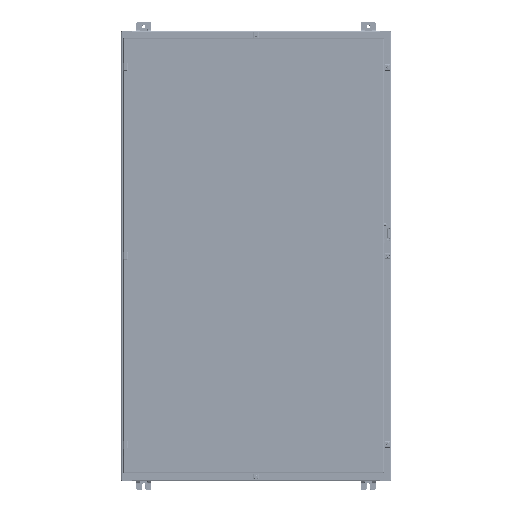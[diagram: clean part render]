
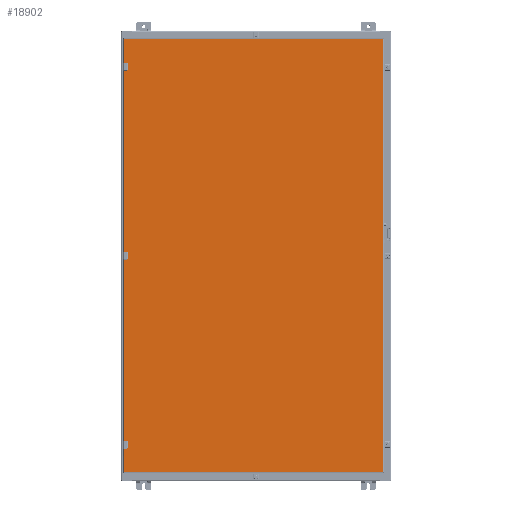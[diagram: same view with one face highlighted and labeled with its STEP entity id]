
A CAD part, top view. The second image highlights one B-rep face of the part: STEP entity #18902.
In plain terms, the highlighted planar face has unit normal (0, 0, 1) as drawn and (0, 1, 0) by its records, which use the part's own axes.
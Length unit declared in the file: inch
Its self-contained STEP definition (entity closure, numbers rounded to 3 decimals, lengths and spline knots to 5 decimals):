
#14120=DIRECTION('',(0.,0.,1.));
#14121=VECTOR('',#14120,34.566);
#14122=CARTESIAN_POINT('',(-28.91438,0.,0.117));
#14123=LINE('',#14122,#14121);
#14198=DIRECTION('',(0.,0.,-1.));
#14199=VECTOR('',#14198,0.3629);
#14200=CARTESIAN_POINT('',(25.59513,0.,34.683));
#14201=LINE('',#14200,#14199);
#14205=DIRECTION('',(-1.,0.,0.));
#14206=VECTOR('',#14205,0.63);
#14207=CARTESIAN_POINT('',(25.56513,0.,34.2901));
#14208=LINE('',#14207,#14206);
#14212=DIRECTION('',(0.,0.,-1.));
#14213=VECTOR('',#14212,0.3629);
#14214=CARTESIAN_POINT('',(24.90513,0.,34.683));
#14215=LINE('',#14214,#14213);
#14219=DIRECTION('',(0.,0.,-1.));
#14220=VECTOR('',#14219,0.3629);
#14221=CARTESIAN_POINT('',(0.345,0.,34.683));
#14222=LINE('',#14221,#14220);
#14226=DIRECTION('',(-1.,0.,0.));
#14227=VECTOR('',#14226,0.63);
#14228=CARTESIAN_POINT('',(0.315,0.,34.2901));
#14229=LINE('',#14228,#14227);
#14233=DIRECTION('',(0.,0.,-1.));
#14234=VECTOR('',#14233,0.3629);
#14235=CARTESIAN_POINT('',(-0.345,0.,34.683));
#14236=LINE('',#14235,#14234);
#14240=DIRECTION('',(0.,0.,-1.));
#14241=VECTOR('',#14240,0.3629);
#14242=CARTESIAN_POINT('',(-24.90513,0.,34.683));
#14243=LINE('',#14242,#14241);
#14247=DIRECTION('',(-1.,0.,0.));
#14248=VECTOR('',#14247,0.63);
#14249=CARTESIAN_POINT('',(-24.93513,0.,34.2901));
#14250=LINE('',#14249,#14248);
#14254=DIRECTION('',(0.,0.,-1.));
#14255=VECTOR('',#14254,0.3629);
#14256=CARTESIAN_POINT('',(-25.59513,0.,34.683));
#14257=LINE('',#14256,#14255);
#14261=DIRECTION('',(0.,0.,1.));
#14262=VECTOR('',#14261,34.566);
#14263=CARTESIAN_POINT('',(28.91438,0.,0.117));
#14264=LINE('',#14263,#14262);
#14428=DIRECTION('',(-1.,0.,0.));
#14429=VECTOR('',#14428,57.82875);
#14430=CARTESIAN_POINT('',(28.91438,0.,0.117));
#14431=LINE('',#14430,#14429);
#16110=DIRECTION('',(-1.,0.,0.));
#16111=VECTOR('',#16110,24.56013);
#16112=CARTESIAN_POINT('',(24.90513,0.,34.683));
#16113=LINE('',#16112,#16111);
#16155=DIRECTION('',(-1.,0.,0.));
#16156=VECTOR('',#16155,24.56013);
#16157=CARTESIAN_POINT('',(-0.345,0.,34.683));
#16158=LINE('',#16157,#16156);
#16196=DIRECTION('',(-1.,0.,0.));
#16197=VECTOR('',#16196,3.31925);
#16198=CARTESIAN_POINT('',(-25.59513,0.,34.683));
#16199=LINE('',#16198,#16197);
#16233=DIRECTION('',(-1.,0.,0.));
#16234=VECTOR('',#16233,3.31925);
#16235=CARTESIAN_POINT('',(28.91438,0.,34.683));
#16236=LINE('',#16235,#16234);
#16254=CARTESIAN_POINT('',(24.93513,0.,34.3201));
#16255=DIRECTION('',(0.,-1.,0.));
#16256=DIRECTION('',(-1.,0.,0.));
#16257=AXIS2_PLACEMENT_3D('',#16254,#16255,#16256);
#16284=CARTESIAN_POINT('',(25.56513,0.,34.3201));
#16285=DIRECTION('',(0.,-1.,0.));
#16286=DIRECTION('',(0.,0.,-1.));
#16287=AXIS2_PLACEMENT_3D('',#16284,#16285,#16286);
#16832=CARTESIAN_POINT('',(-0.315,0.,34.3201));
#16833=DIRECTION('',(0.,-1.,0.));
#16834=DIRECTION('',(-1.,0.,0.));
#16835=AXIS2_PLACEMENT_3D('',#16832,#16833,#16834);
#16862=CARTESIAN_POINT('',(0.315,0.,34.3201));
#16863=DIRECTION('',(0.,-1.,0.));
#16864=DIRECTION('',(0.,0.,-1.));
#16865=AXIS2_PLACEMENT_3D('',#16862,#16863,#16864);
#16952=CARTESIAN_POINT('',(-25.56513,0.,34.3201));
#16953=DIRECTION('',(0.,-1.,0.));
#16954=DIRECTION('',(-1.,0.,0.));
#16955=AXIS2_PLACEMENT_3D('',#16952,#16953,#16954);
#16982=CARTESIAN_POINT('',(-24.93513,0.,34.3201));
#16983=DIRECTION('',(0.,-1.,0.));
#16984=DIRECTION('',(0.,0.,-1.));
#16985=AXIS2_PLACEMENT_3D('',#16982,#16983,#16984);
#17799=CARTESIAN_POINT('',(28.91438,0.,0.117));
#17800=CARTESIAN_POINT('',(-28.91438,0.,0.117));
#17801=VERTEX_POINT('',#17799);
#17802=VERTEX_POINT('',#17800);
#18077=CARTESIAN_POINT('',(-28.91438,0.,34.683));
#18078=VERTEX_POINT('',#18077);
#18087=CARTESIAN_POINT('',(28.91438,0.,34.683));
#18089=VERTEX_POINT('',#18087);
#18280=CARTESIAN_POINT('',(-24.90513,0.,34.683));
#18282=VERTEX_POINT('',#18280);
#18284=CARTESIAN_POINT('',(-25.59513,0.,34.683));
#18286=VERTEX_POINT('',#18284);
#18296=CARTESIAN_POINT('',(25.59513,0.,34.683));
#18298=VERTEX_POINT('',#18296);
#18300=CARTESIAN_POINT('',(24.90513,0.,34.683));
#18302=VERTEX_POINT('',#18300);
#18312=CARTESIAN_POINT('',(0.345,0.,34.683));
#18314=VERTEX_POINT('',#18312);
#18316=CARTESIAN_POINT('',(-0.345,0.,34.683));
#18318=VERTEX_POINT('',#18316);
#18327=CARTESIAN_POINT('',(-25.59513,0.,34.3201));
#18329=VERTEX_POINT('',#18327);
#18331=CARTESIAN_POINT('',(-25.56513,0.,34.2901));
#18333=VERTEX_POINT('',#18331);
#18351=CARTESIAN_POINT('',(-24.93513,0.,34.2901));
#18353=VERTEX_POINT('',#18351);
#18355=CARTESIAN_POINT('',(-24.90513,0.,34.3201));
#18357=VERTEX_POINT('',#18355);
#18359=CARTESIAN_POINT('',(24.90513,0.,34.3201));
#18361=VERTEX_POINT('',#18359);
#18363=CARTESIAN_POINT('',(24.93513,0.,34.2901));
#18365=VERTEX_POINT('',#18363);
#18383=CARTESIAN_POINT('',(25.56513,0.,34.2901));
#18385=VERTEX_POINT('',#18383);
#18387=CARTESIAN_POINT('',(25.59513,0.,34.3201));
#18389=VERTEX_POINT('',#18387);
#18391=CARTESIAN_POINT('',(-0.345,0.,34.3201));
#18393=VERTEX_POINT('',#18391);
#18395=CARTESIAN_POINT('',(-0.315,0.,34.2901));
#18397=VERTEX_POINT('',#18395);
#18415=CARTESIAN_POINT('',(0.315,0.,34.2901));
#18417=VERTEX_POINT('',#18415);
#18419=CARTESIAN_POINT('',(0.345,0.,34.3201));
#18421=VERTEX_POINT('',#18419);
#18852=CARTESIAN_POINT('',(29.03138,0.,0.));
#18853=DIRECTION('',(0.,1.,0.));
#18854=DIRECTION('',(-1.,0.,0.));
#18855=AXIS2_PLACEMENT_3D('',#18852,#18853,#18854);
#18856=PLANE('',#18855);
#18858=ORIENTED_EDGE('',*,*,#18857,.T.);
#18860=ORIENTED_EDGE('',*,*,#18859,.T.);
#18862=ORIENTED_EDGE('',*,*,#18861,.T.);
#18864=ORIENTED_EDGE('',*,*,#18863,.F.);
#18866=ORIENTED_EDGE('',*,*,#18865,.T.);
#18868=ORIENTED_EDGE('',*,*,#18867,.F.);
#18870=ORIENTED_EDGE('',*,*,#18869,.F.);
#18872=ORIENTED_EDGE('',*,*,#18871,.T.);
#18874=ORIENTED_EDGE('',*,*,#18873,.T.);
#18876=ORIENTED_EDGE('',*,*,#18875,.F.);
#18878=ORIENTED_EDGE('',*,*,#18877,.T.);
#18880=ORIENTED_EDGE('',*,*,#18879,.F.);
#18882=ORIENTED_EDGE('',*,*,#18881,.F.);
#18884=ORIENTED_EDGE('',*,*,#18883,.T.);
#18886=ORIENTED_EDGE('',*,*,#18885,.T.);
#18888=ORIENTED_EDGE('',*,*,#18887,.F.);
#18890=ORIENTED_EDGE('',*,*,#18889,.T.);
#18892=ORIENTED_EDGE('',*,*,#18891,.F.);
#18894=ORIENTED_EDGE('',*,*,#18893,.F.);
#18896=ORIENTED_EDGE('',*,*,#18895,.T.);
#18897=ORIENTED_EDGE('',*,*,#18842,.F.);
#18899=ORIENTED_EDGE('',*,*,#18898,.F.);
#18900=EDGE_LOOP('',(#18858,#18860,#18862,#18864,#18866,#18868,#18870,#18872,
#18874,#18876,#18878,#18880,#18882,#18884,#18886,#18888,#18890,#18892,#18894,
#18896,#18897,#18899));
#18901=FACE_OUTER_BOUND('',#18900,.F.);
#16258=CIRCLE('',#16257,0.03);
#16288=CIRCLE('',#16287,0.03);
#16836=CIRCLE('',#16835,0.03);
#16866=CIRCLE('',#16865,0.03);
#16956=CIRCLE('',#16955,0.03);
#16986=CIRCLE('',#16985,0.03);
#18842=EDGE_CURVE('',#17802,#18078,#14123,.T.);
#18857=EDGE_CURVE('',#17801,#18089,#14264,.T.);
#18859=EDGE_CURVE('',#18089,#18298,#16236,.T.);
#18861=EDGE_CURVE('',#18298,#18389,#14201,.T.);
#18863=EDGE_CURVE('',#18385,#18389,#16288,.T.);
#18865=EDGE_CURVE('',#18385,#18365,#14208,.T.);
#18867=EDGE_CURVE('',#18361,#18365,#16258,.T.);
#18869=EDGE_CURVE('',#18302,#18361,#14215,.T.);
#18871=EDGE_CURVE('',#18302,#18314,#16113,.T.);
#18873=EDGE_CURVE('',#18314,#18421,#14222,.T.);
#18875=EDGE_CURVE('',#18417,#18421,#16866,.T.);
#18877=EDGE_CURVE('',#18417,#18397,#14229,.T.);
#18879=EDGE_CURVE('',#18393,#18397,#16836,.T.);
#18881=EDGE_CURVE('',#18318,#18393,#14236,.T.);
#18883=EDGE_CURVE('',#18318,#18282,#16158,.T.);
#18885=EDGE_CURVE('',#18282,#18357,#14243,.T.);
#18887=EDGE_CURVE('',#18353,#18357,#16986,.T.);
#18889=EDGE_CURVE('',#18353,#18333,#14250,.T.);
#18891=EDGE_CURVE('',#18329,#18333,#16956,.T.);
#18893=EDGE_CURVE('',#18286,#18329,#14257,.T.);
#18895=EDGE_CURVE('',#18286,#18078,#16199,.T.);
#18898=EDGE_CURVE('',#17801,#17802,#14431,.T.);
#18902=ADVANCED_FACE('',(#18901),#18856,.T.);
